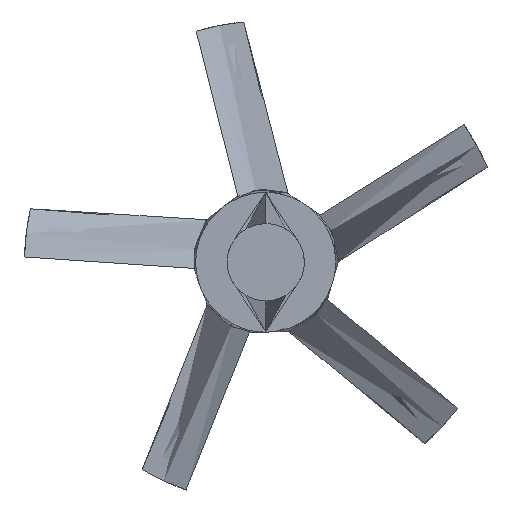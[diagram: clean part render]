
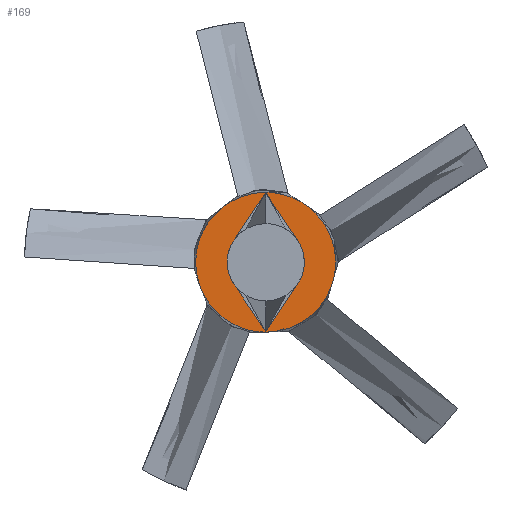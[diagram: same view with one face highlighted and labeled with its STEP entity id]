
A CAD part, left-side view. The second image highlights one B-rep face of the part: STEP entity #169.
In plain terms, the highlighted planar face has unit normal (-1, 0, 0).
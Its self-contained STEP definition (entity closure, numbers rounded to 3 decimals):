
#169=ADVANCED_FACE($,(#247,#241),#1114,.T.);
#241=FACE_BOUND($,#321,.T.);
#247=FACE_OUTER_BOUND($,#320,.T.);
#320=EDGE_LOOP($,(#400,#401));
#321=EDGE_LOOP($,(#402,#403,#404));
#400=ORIENTED_EDGE($,*,*,#754,.T.);
#401=ORIENTED_EDGE($,*,*,#917,.T.);
#402=ORIENTED_EDGE($,*,*,#921,.F.);
#403=ORIENTED_EDGE($,*,*,#756,.F.);
#404=ORIENTED_EDGE($,*,*,#755,.F.);
#754=EDGE_CURVE($,#933,#1036,#1272,.T.);
#755=EDGE_CURVE($,#934,#932,#1273,.T.);
#756=EDGE_CURVE($,#932,#1038,#1274,.T.);
#917=EDGE_CURVE($,#1036,#933,#1289,.T.);
#921=EDGE_CURVE($,#1038,#934,#1292,.T.);
#932=VERTEX_POINT($,#18600);
#933=VERTEX_POINT($,#18601);
#934=VERTEX_POINT($,#18602);
#1036=VERTEX_POINT($,#18704);
#1038=VERTEX_POINT($,#18706);
#1114=PLANE($,#1329);
#1272=(
BOUNDED_CURVE()
B_SPLINE_CURVE(2,(#1371,#1372,#1373,#1374,#1375),.UNSPECIFIED.,.F.,.F.)
B_SPLINE_CURVE_WITH_KNOTS((3,2,3),(0.,1.571,3.142),
.UNSPECIFIED.)
CURVE()
GEOMETRIC_REPRESENTATION_ITEM()
RATIONAL_B_SPLINE_CURVE((1.,0.707,1.,0.707,1.))
REPRESENTATION_ITEM($)
);
#1273=(
BOUNDED_CURVE()
B_SPLINE_CURVE(2,(#1376,#1377,#1378,#1379,#1380),.UNSPECIFIED.,.F.,.F.)
B_SPLINE_CURVE_WITH_KNOTS((3,2,3),(-69.111,-51.833,-34.556),
.UNSPECIFIED.)
CURVE()
GEOMETRIC_REPRESENTATION_ITEM()
RATIONAL_B_SPLINE_CURVE((1.,0.707,1.,0.707,1.))
REPRESENTATION_ITEM($)
);
#1274=(
BOUNDED_CURVE()
B_SPLINE_CURVE(2,(#1381,#1382,#1383,#1384,#1385,#1386,#1387),.UNSPECIFIED.,
.F.,.F.)
B_SPLINE_CURVE_WITH_KNOTS((3,2,2,3),(-34.556,-34.555,
-17.278,-0.001),.UNSPECIFIED.)
CURVE()
GEOMETRIC_REPRESENTATION_ITEM()
RATIONAL_B_SPLINE_CURVE((1.,1.,1.,0.707,1.,0.707,
1.))
REPRESENTATION_ITEM($)
);
#1289=(
BOUNDED_CURVE()
B_SPLINE_CURVE(2,(#5010,#5011,#5012,#5013,#5014),.UNSPECIFIED.,.F.,.F.)
B_SPLINE_CURVE_WITH_KNOTS((3,2,3),(3.142,4.712,6.283),
.UNSPECIFIED.)
CURVE()
GEOMETRIC_REPRESENTATION_ITEM()
RATIONAL_B_SPLINE_CURVE((1.,0.707,1.,0.707,1.))
REPRESENTATION_ITEM($)
);
#1292=(
BOUNDED_CURVE()
B_SPLINE_CURVE(2,(#5025,#5026,#5027),.UNSPECIFIED.,.F.,.F.)
B_SPLINE_CURVE_WITH_KNOTS((3,3),(-0.001,0.),.UNSPECIFIED.)
CURVE()
GEOMETRIC_REPRESENTATION_ITEM()
RATIONAL_B_SPLINE_CURVE((1.,1.,1.))
REPRESENTATION_ITEM($)
);
#1329=AXIS2_PLACEMENT_3D($,#5058,#1336,$);
#1336=DIRECTION($,(-1.,0.,0.));
#1371=CARTESIAN_POINT($,(-25.,0.,36.23));
#1372=CARTESIAN_POINT($,(-25.,36.23,36.23));
#1373=CARTESIAN_POINT($,(-25.,36.23,0.));
#1374=CARTESIAN_POINT($,(-25.,36.23,-36.23));
#1375=CARTESIAN_POINT($,(-25.,0.,-36.23));
#1376=CARTESIAN_POINT($,(-25.,-11.,0.001));
#1377=CARTESIAN_POINT($,(-25.,-10.999,11.001));
#1378=CARTESIAN_POINT($,(-25.,0.001,11.));
#1379=CARTESIAN_POINT($,(-25.,11.,10.999));
#1380=CARTESIAN_POINT($,(-25.,11.,0.));
#1381=CARTESIAN_POINT($,(-25.,11.,0.));
#1382=CARTESIAN_POINT($,(-25.,11.,0.));
#1383=CARTESIAN_POINT($,(-25.,11.,-0.001));
#1384=CARTESIAN_POINT($,(-25.,10.999,-11.001));
#1385=CARTESIAN_POINT($,(-25.,-0.001,-11.));
#1386=CARTESIAN_POINT($,(-25.,-11.,-10.999));
#1387=CARTESIAN_POINT($,(-25.,-11.,0.));
#5010=CARTESIAN_POINT($,(-25.,0.,-36.23));
#5011=CARTESIAN_POINT($,(-25.,-36.23,-36.23));
#5012=CARTESIAN_POINT($,(-25.,-36.23,0.));
#5013=CARTESIAN_POINT($,(-25.,-36.23,36.23));
#5014=CARTESIAN_POINT($,(-25.,0.,36.23));
#5025=CARTESIAN_POINT($,(-25.,-11.,0.));
#5026=CARTESIAN_POINT($,(-25.,-11.,0.));
#5027=CARTESIAN_POINT($,(-25.,-11.,0.001));
#5058=CARTESIAN_POINT($,(-25.,-36.23,36.23));
#18600=CARTESIAN_POINT($,(-25.,11.,0.));
#18601=CARTESIAN_POINT($,(-25.,0.,36.23));
#18602=CARTESIAN_POINT($,(-25.,-11.,0.001));
#18704=CARTESIAN_POINT($,(-25.,0.,-36.23));
#18706=CARTESIAN_POINT($,(-25.,-11.,0.));
